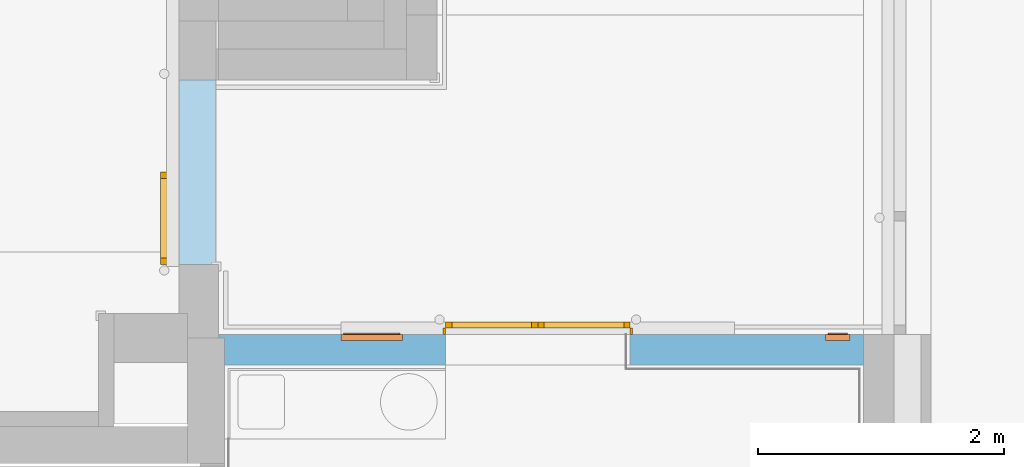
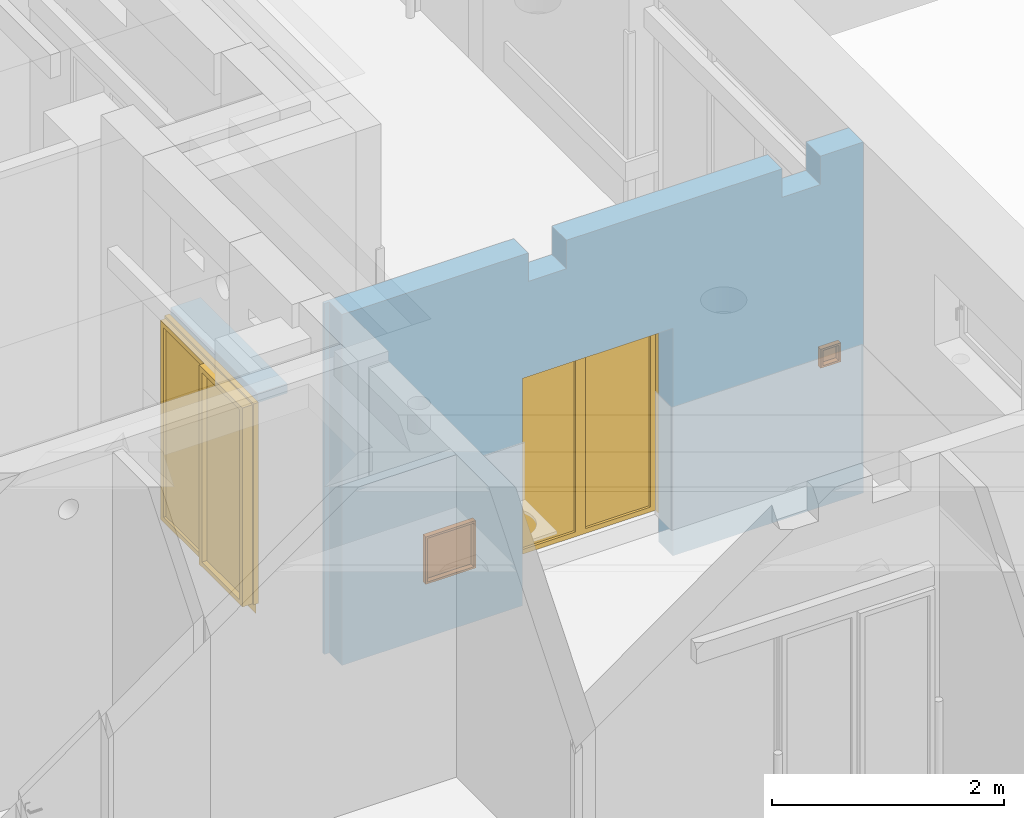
# One storey, part 84 of 140: 2 doors, 2 proxies, 6 openings, plus 2 elements that do not belong to this part.
"""IFC4 building model written with IfcOpenShell, lengths in metres."""

import ifcopenshell
import ifcopenshell.guid

model = None  # the IFC model being written
_history = None  # IfcOwnerHistory: only IFC2X3 demands one
_inside = {}  # id of a spatial element -> (the spatial element, [elements in it])
_under = {}  # id of a project, library or spatial element -> (it, [spatial elements below it])
_declared = {}  # id of a project -> (the project, [libraries it declares])
_typed = {}  # id of a type object -> (the type object, [elements of that type])
_made_of = {}  # id of a material, layer set ... -> (it, [elements and type objects made of it])


def new_model(schema):
    """Start an empty IFC model of exactly this schema.

    Asked for "IFC4X3", IfcOpenShell would pick the latest addendum, in which some entities
    have other attributes; the version numbers below select the first issue.
    IFC2X3 requires an IfcOwnerHistory on every rooted entity: one is made here for all.
    """
    global model, _history
    if schema == "IFC4X3":
        model = ifcopenshell.file(schema_version=(4, 3, 0, 0))
    else:
        model = ifcopenshell.file(schema=schema)
    _inside.clear()
    _under.clear()
    _declared.clear()
    _typed.clear()
    _made_of.clear()
    _history = None
    if model.schema == "IFC2X3":
        org = make("IfcOrganization", Name="unknown")
        user = make(
            "IfcPersonAndOrganization",
            ThePerson=make("IfcPerson", FamilyName="unknown"),
            TheOrganization=org,
        )
        app = make(
            "IfcApplication",
            ApplicationDeveloper=org,
            Version="unknown",
            ApplicationFullName="unknown",
            ApplicationIdentifier="unknown",
        )
        _history = make(
            "IfcOwnerHistory",
            OwningUser=user,
            OwningApplication=app,
            ChangeAction="ADDED",
            CreationDate=0,
        )
    return model


def make(cls, **values):
    """One entity of the class cls with the attributes given. An attribute that is None is left unset."""
    return model.create_entity(
        cls, **{name: value for name, value in values.items() if value is not None}
    )


def entity(cls, *values):
    """Any entity or typed value of the class cls, its attributes in the order of the schema. None: left unset."""
    e = model.create_entity(cls)
    for i, value in enumerate(values):
        if value is not None:
            e[i] = value
    return e


def rooted(cls, **values):
    """An entity with a GlobalId (a new one), such as an element, a storey or a relation."""
    return make(cls, GlobalId=ifcopenshell.guid.new(), OwnerHistory=_history, **values)


def si_unit(unit_type, name, prefix=None):
    """IfcSIUnit, for example si_unit("LENGTHUNIT", "METRE", prefix="MILLI")."""
    return make("IfcSIUnit", UnitType=unit_type, Prefix=prefix, Name=name)


def converted_unit(unit_type, name, factor, base, dimensions=None, offset=None):
    """IfcConversionBasedUnit, such as the inch: factor (a typed value) times the base unit."""
    return make(
        "IfcConversionBasedUnit"
        if offset is None
        else "IfcConversionBasedUnitWithOffset",
        ConversionOffset=offset,
        Dimensions=None
        if dimensions is None
        else entity("IfcDimensionalExponents", *dimensions),
        UnitType=unit_type,
        Name=name,
        ConversionFactor=make(
            "IfcMeasureWithUnit", ValueComponent=factor, UnitComponent=base
        ),
    )


def derived_unit(unit_type, elements):
    """IfcDerivedUnit: a product of units, each with its exponent."""
    return make(
        "IfcDerivedUnit",
        Elements=[
            make("IfcDerivedUnitElement", Unit=unit, Exponent=power)
            for unit, power in elements
        ],
        UnitType=unit_type,
    )


def assignment(units):
    """IfcUnitAssignment: the units of a project."""
    return None if units is None else make("IfcUnitAssignment", Units=units)


def point(xyz):
    """IfcCartesianPoint."""
    return None if xyz is None else make("IfcCartesianPoint", Coordinates=xyz)


def direction(xyz):
    """IfcDirection."""
    return None if xyz is None else make("IfcDirection", DirectionRatios=xyz)


def frame(location, z_axis=None, x_axis=None):
    """IfcAxis2Placement3D, a coordinate frame: its origin and axes. An axis left out is left unset."""
    return make(
        "IfcAxis2Placement3D",
        Location=point(location),
        Axis=direction(z_axis),
        RefDirection=direction(x_axis),
    )


def frame_2d(location, x_axis=None):
    """IfcAxis2Placement2D, a coordinate frame in the plane: its origin and x axis."""
    return make(
        "IfcAxis2Placement2D", Location=point(location), RefDirection=direction(x_axis)
    )


def origin():
    """The frame at (0, 0, 0) with its axes left unset."""
    return frame((0.0, 0.0, 0.0))


def origin_with_axes():
    """The frame at (0, 0, 0) with the z axis (0, 0, 1) and the x axis (1, 0, 0) written out."""
    return frame((0.0, 0.0, 0.0), z_axis=(0.0, 0.0, 1.0), x_axis=(1.0, 0.0, 0.0))


def place(relative_to, where):
    """IfcLocalPlacement: puts the frame where relative to a parent placement (None: the world)."""
    return make(
        "IfcLocalPlacement", PlacementRelTo=relative_to, RelativePlacement=where
    )


def context(
    kind, dimensions, precision=None, world=None, true_north=None, identifier=None
):
    """IfcGeometricRepresentationContext, for example the 3D "Model" context."""
    return make(
        "IfcGeometricRepresentationContext",
        ContextIdentifier=identifier,
        ContextType=kind,
        CoordinateSpaceDimension=dimensions,
        Precision=precision,
        WorldCoordinateSystem=world,
        TrueNorth=true_north,
    )


def subcontext(parent, identifier, kind, view, scale=None):
    """IfcGeometricRepresentationSubContext, for example "Body" below "Model"."""
    return make(
        "IfcGeometricRepresentationSubContext",
        ContextIdentifier=identifier,
        ContextType=kind,
        ParentContext=parent,
        TargetScale=scale,
        TargetView=view,
    )


def project(units=None, contexts=None):
    """IfcProject with its units and contexts."""
    return rooted(
        "IfcProject",
        Name="project",
        RepresentationContexts=contexts,
        UnitsInContext=assignment(units),
    )


def spatial(cls, under=None, at=None, **own):
    """A site, building, storey or space (cls), placed at a placement, below another one or the project."""
    s = rooted(cls, ObjectPlacement=at, **own)
    if under is not None:
        _under.setdefault(under.id(), (under, []))[1].append(s)
    return s


def polyline(points):
    """IfcPolyline through the points."""
    return make("IfcPolyline", Points=[point(p) for p in points])


def profile(cls, at=None, kind="AREA", **sizes):
    """A parametric profile (cls). Its sizes go by their IFC names, for example OverallWidth=200.0."""
    return make(cls, ProfileType=kind, Position=at, **sizes)


def rectangle(**sizes):
    """IfcRectangleProfileDef."""
    return profile("IfcRectangleProfileDef", **sizes)


def outline(outer, holes=None, kind="AREA"):
    """IfcArbitraryClosedProfileDef: a profile drawn as a closed curve; with holes, ...WithVoids."""
    if holes is None:
        return make("IfcArbitraryClosedProfileDef", ProfileType=kind, OuterCurve=outer)
    return make(
        "IfcArbitraryProfileDefWithVoids",
        ProfileType=kind,
        OuterCurve=outer,
        InnerCurves=holes,
    )


def extrude(swept, where, along, depth):
    """IfcExtrudedAreaSolid: the profile swept, set in the frame where, extruded along a direction by depth."""
    return make(
        "IfcExtrudedAreaSolid",
        SweptArea=swept,
        Position=where,
        ExtrudedDirection=direction(along),
        Depth=depth,
    )


def faces_of(points, faces, orient=None, outer=None):
    """IfcFace entities. A face is a list of loops; a loop is a list of indices into points, from 0.

    orient and outer hold one flag for each loop. By default every Orientation is true, the
    first loop of a face is its IfcFaceOuterBound and the others are IfcFaceBound.
    """
    made = []
    for i, loops in enumerate(faces):
        bounds = []
        for j, loop in enumerate(loops):
            is_outer = j == 0 if outer is None else outer[i][j]
            bounds.append(
                make(
                    "IfcFaceOuterBound" if is_outer else "IfcFaceBound",
                    Bound=make("IfcPolyLoop", Polygon=[points[k] for k in loop]),
                    Orientation=True if orient is None else orient[i][j],
                )
            )
        made.append(make("IfcFace", Bounds=bounds))
    return made


def closed_shell(faces, orient=None, outer=None):
    """The faces of one IfcClosedShell. faceted_brep and surface_model build it on their shared points."""
    return ("IfcClosedShell", faces, orient, outer)


def open_shell(faces, orient=None, outer=None):
    """The faces of one IfcOpenShell. surface_model builds it on its shared points."""
    return ("IfcOpenShell", faces, orient, outer)


def faceted_brep(points, faces, orient=None, outer=None, voids=None):
    """IfcFacetedBrep: a solid bounded by flat faces; with voids (closed shells), ...WithVoids."""
    shared = [point(p) for p in points]
    hull = make("IfcClosedShell", CfsFaces=faces_of(shared, faces, orient, outer))
    if voids is None:
        return make("IfcFacetedBrep", Outer=hull)
    return make(
        "IfcFacetedBrepWithVoids",
        Outer=hull,
        Voids=[
            make(cls, CfsFaces=faces_of(shared, fs, o, b)) for cls, fs, o, b in voids
        ],
    )


def surface_model(cls, points, shells):
    """IfcFaceBasedSurfaceModel or IfcShellBasedSurfaceModel (cls): surfaces that need not close."""
    shared = [point(p) for p in points]
    made = [make(c, CfsFaces=faces_of(shared, fs, o, b)) for c, fs, o, b in shells]
    if cls == "IfcFaceBasedSurfaceModel":
        return make(cls, FbsmFaces=made)
    return make(cls, SbsmBoundary=made)


def shape(context_of_items, identifier, shape_type, items):
    """IfcShapeRepresentation: the items that make up one representation, for example the "Body"."""
    return make(
        "IfcShapeRepresentation",
        ContextOfItems=context_of_items,
        RepresentationIdentifier=identifier,
        RepresentationType=shape_type,
        Items=items,
    )


def source(mapping_origin, context_of_items, identifier, shape_type, items):
    """IfcRepresentationMap: a shape defined once, which mapped items show again and again."""
    return make(
        "IfcRepresentationMap",
        MappingOrigin=mapping_origin,
        MappedRepresentation=shape(context_of_items, identifier, shape_type, items),
    )


def transform(
    local_origin,
    x_axis=None,
    y_axis=None,
    z_axis=None,
    scale=None,
    scale2=None,
    scale3=None,
    uniform=True,
):
    """IfcCartesianTransformationOperator3D, or its non-uniform kind. x_axis, y_axis, z_axis: its Axis1, 2, 3."""
    if uniform:
        return make(
            "IfcCartesianTransformationOperator3D",
            Axis1=direction(x_axis),
            Axis2=direction(y_axis),
            LocalOrigin=point(local_origin),
            Scale=scale,
            Axis3=direction(z_axis),
        )
    return make(
        "IfcCartesianTransformationOperator3DnonUniform",
        Axis1=direction(x_axis),
        Axis2=direction(y_axis),
        LocalOrigin=point(local_origin),
        Scale=scale,
        Axis3=direction(z_axis),
        Scale2=scale2,
        Scale3=scale3,
    )


def mapped(mapping_source, mapping_target):
    """IfcMappedItem: shows the shape of a source again, moved by a transform."""
    return make(
        "IfcMappedItem", MappingSource=mapping_source, MappingTarget=mapping_target
    )


def material(Name=None, Category=None):
    """IfcMaterial."""
    return make("IfcMaterial", Name=Name, Category=Category)


def layer(
    of_material, thickness, ventilated=None, Name=None, Category=None, Priority=None
):
    """IfcMaterialLayer: one layer of a wall or slab, of a material (None: an air gap)."""
    return make(
        "IfcMaterialLayer",
        Material=of_material,
        LayerThickness=thickness,
        IsVentilated=ventilated,
        Name=Name,
        Category=Category,
        Priority=Priority,
    )


def layer_set(layers, Name=None):
    """IfcMaterialLayerSet."""
    return make("IfcMaterialLayerSet", MaterialLayers=layers, LayerSetName=Name)


def layer_usage(for_layer_set, set_direction, sense, offset, extent=None):
    """IfcMaterialLayerSetUsage: how a layer set lies in its element."""
    return make(
        "IfcMaterialLayerSetUsage",
        ForLayerSet=for_layer_set,
        LayerSetDirection=set_direction,
        DirectionSense=sense,
        OffsetFromReferenceLine=offset,
        ReferenceExtent=extent,
    )


def made_of(thing, what):
    """Note that an element or type object is made of a material, layer set ...; save() writes the relation."""
    if what is not None:
        _made_of.setdefault(what.id(), (what, []))[1].append(thing)
    return thing


def type_object(cls, material=None, **own):
    """A type object (cls), such as IfcWallType, which elements share."""
    return made_of(rooted(cls, **own), material)


def element(
    cls,
    number,
    at=None,
    inside=None,
    cuts=None,
    type_object=None,
    material=None,
    context=None,
    identifier="Body",
    shape_type=None,
    held_by="IfcProductDefinitionShape",
    body=None,
    shapes=None,
    **own,
):
    """One element of the class cls, such as IfcWall. Its Tag is "e" and its number.

    at: its placement. inside: the storey or other place that contains it. cuts: it is an
    opening in that element (IfcRelVoidsElement). A single representation is given by context,
    identifier, shape_type and body (its items); several are given by shapes. held_by: the class
    of the entity that holds the representations. save() writes the other relations.
    """
    e = rooted(cls, Tag="e%d" % number, ObjectPlacement=at, **own)
    if body is not None:
        shapes = [shape(context, identifier, shape_type, body)]
    if shapes is not None:
        e.Representation = make(held_by, Representations=shapes)
    if inside is not None:
        _inside.setdefault(inside.id(), (inside, []))[1].append(e)
    if cuts is not None:
        rooted(
            "IfcRelVoidsElement", RelatingBuildingElement=cuts, RelatedOpeningElement=e
        )
    if type_object is not None:
        _typed.setdefault(type_object.id(), (type_object, []))[1].append(e)
    return made_of(e, material)


def fill(opening, filler):
    """IfcRelFillsElement: the door or window that sits in an opening."""
    return rooted(
        "IfcRelFillsElement",
        RelatingOpeningElement=opening,
        RelatedBuildingElement=filler,
    )


def aggregate(whole, parts):
    """IfcRelAggregates: a whole, such as a stair, and the parts it consists of."""
    return rooted("IfcRelAggregates", RelatingObject=whole, RelatedObjects=parts)


def save(model, path):
    """Write the relations noted so far, then the file.

    IfcRelAggregates (storeys below a building ...), IfcRelContainedInSpatialStructure (elements
    in a storey), IfcRelDefinesByType, IfcRelAssociatesMaterial and IfcRelDeclares: one each for
    every whole, place, type object, material and project.
    """
    for whole, parts in _under.values():
        aggregate(whole, parts)
    for where, things in _inside.values():
        rooted(
            "IfcRelContainedInSpatialStructure",
            RelatedElements=things,
            RelatingStructure=where,
        )
    for kind, things in _typed.values():
        rooted("IfcRelDefinesByType", RelatedObjects=things, RelatingType=kind)
    for what, things in _made_of.values():
        rooted("IfcRelAssociatesMaterial", RelatedObjects=things, RelatingMaterial=what)
    for by, libraries in _declared.values():
        rooted("IfcRelDeclares", RelatingContext=by, RelatedDefinitions=libraries)
    model.write(path)


model = new_model("IFC4")

# Units and contexts
model_context = context("Model", 3, precision=1e-05, world=origin())
body_context = subcontext(model_context, "Body", "Model", "MODEL_VIEW")
ifc_project = project(units=[si_unit("LENGTHUNIT", "METRE"), si_unit("AREAUNIT", "SQUARE_METRE"), si_unit("VOLUMEUNIT", "CUBIC_METRE"), si_unit("MASSUNIT", "GRAM", prefix="KILO"), converted_unit("PLANEANGLEUNIT", "DEGREE", entity("IfcPlaneAngleMeasure", 0.0174532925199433), si_unit("PLANEANGLEUNIT", "RADIAN"), dimensions=[0, 0, 0, 0, 0, 0, 0]), derived_unit("THERMALTRANSMITTANCEUNIT", [(si_unit("POWERUNIT", "WATT"), 1), (si_unit("THERMODYNAMICTEMPERATUREUNIT", "KELVIN"), -1), (si_unit("LENGTHUNIT", "METRE"), -2)]), derived_unit("VOLUMETRICFLOWRATEUNIT", [(si_unit("LENGTHUNIT", "METRE"), 3), (converted_unit("TIMEUNIT", "hour", entity("IfcTimeMeasure", 3600.0), si_unit("TIMEUNIT", "SECOND"), dimensions=[0, 0, 1, 0, 0, 0, 0]), -1), (si_unit("LENGTHUNIT", "METRE"), -1)])], contexts=[model_context])

# Site, building, storey
site_placement = place(None, origin())
site = spatial("IfcSite", under=ifc_project, at=site_placement, Name="3. ASŘ", CompositionType="ELEMENT")
building_placement = place(site_placement, origin())
building = spatial("IfcBuilding", under=site, at=building_placement, Name="Pavilon C", CompositionType="ELEMENT")
storey_placement = place(building_placement, origin())
storey = spatial("IfcBuildingStorey", under=building, at=storey_placement, Name="Půdorys 1.NP", CompositionType="ELEMENT", Elevation=0.0)

# Wall, opening, door
ifc_material_1 = material(Name="YTONG 300")
ifc_layer_1 = layer(ifc_material_1, 0.3)
ifc_layer_set_1 = layer_set([ifc_layer_1])
ifc_layer_usage_1 = layer_usage(ifc_layer_set_1, "AXIS2", "POSITIVE", 0.0)
wall_1_placement = place(storey_placement, frame((49.88, 2.1, -0.1), z_axis=(0.0, 0.0, 1.0), x_axis=(0.0, -1.0, 0.0)))
wall_1 = element("IfcWall", 1, at=wall_1_placement, inside=storey, material=ifc_layer_usage_1, Name="YTONG 300", context=body_context, shape_type="SweptSolid", body=[
    extrude(rectangle(XDim=1.5, YDim=0.3, at=frame_2d((0.749999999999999, 0.15), x_axis=(1.0, 0.0))), origin_with_axes(), (0.0, 0.0, 1.0), 2.3),
])
opening_1_placement = place(wall_1_placement, frame((0.0, 0.0, 0.0), z_axis=(0.0, 1.0, 0.0), x_axis=(0.0, 0.0, 1.0)))
opening_1 = element("IfcOpeningElement", 2, at=opening_1_placement, cuts=wall_1, Name="Dveřní otvor", ObjectType="Opening", context=body_context, shape_type="SweptSolid", body=[
    extrude(outline(polyline([(0.0, 1.5), (2.2, 1.5), (2.2, 0.0), (0.0, 0.0), (0.0, 1.5)])), origin_with_axes(), (0.0, 0.0, 1.0), 0.3),
])
door_type_1 = type_object("IfcDoorType", Name="I.DH04", OperationType="NOTDEFINED", ParameterTakesPrecedence=False, PredefinedType="DOOR")
shared_shape_1 = source(origin_with_axes(), body_context, "Body", "SurfaceModel", [
    surface_model("IfcShellBasedSurfaceModel", [(0.0, 0.025, 0.0), (1.54, 0.025, 0.0), (1.54, 0.025, 0.1), (0.0, 0.025, 0.1)], [open_shell([[[0, 1, 2, 3]]], orient=[[False]])]),
    surface_model("IfcShellBasedSurfaceModel", [(0.0, 0.0500000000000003, 2.22), (0.0, 0.05, 0.101), (0.02, 0.05, 0.101), (0.02, 0.0500000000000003, 2.22), (0.0, 0.0, 0.101), (0.0, 2.62900812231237e-16, 2.22), (0.02, 2.62900812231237e-16, 2.22), (0.02, 0.0, 0.101)], [closed_shell([[[0, 1, 2, 3]], [[4, 5, 6, 7]], [[1, 0, 5, 4]], [[2, 1, 4, 7]], [[3, 2, 7, 6]], [[0, 3, 6, 5]]], orient=[[False], [False], [False], [False], [False], [False]])]),
    surface_model("IfcShellBasedSurfaceModel", [(1.52, 0.0500000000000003, 2.22), (1.52, 0.05, 0.101), (1.54, 0.05, 0.101), (1.54, 0.0500000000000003, 2.22), (1.52, 0.0, 0.101), (1.52, 2.62900812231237e-16, 2.22), (1.54, 2.62900812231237e-16, 2.22), (1.54, 0.0, 0.101)], [closed_shell([[[0, 1, 2, 3]], [[4, 5, 6, 7]], [[1, 0, 5, 4]], [[2, 1, 4, 7]], [[3, 2, 7, 6]], [[0, 3, 6, 5]]], orient=[[False], [False], [False], [False], [False], [False]])]),
    surface_model("IfcShellBasedSurfaceModel", [(0.02, 0.0500000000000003, 2.22), (0.02, 0.0500000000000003, 2.2), (1.52, 0.0500000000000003, 2.2), (1.52, 0.0500000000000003, 2.22), (0.02, 2.55795384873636e-16, 2.2), (0.02, 2.55795384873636e-16, 2.22), (1.52, 2.55795384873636e-16, 2.22), (1.52, 2.55795384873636e-16, 2.2)], [closed_shell([[[0, 1, 2, 3]], [[4, 5, 6, 7]], [[1, 0, 5, 4]], [[2, 1, 4, 7]], [[3, 2, 7, 6]], [[0, 3, 6, 5]]], orient=[[False], [False], [False], [False], [False], [False]])]),
    surface_model("IfcShellBasedSurfaceModel", [(0.02, 0.1, 2.2), (0.02, 0.1, 0.101), (0.07, 0.1, 0.101), (0.07, 0.1, 2.2), (0.02, 0.05, 0.101), (0.02, 0.0500000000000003, 2.2), (0.07, 0.0500000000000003, 2.2), (0.07, 0.05, 0.101)], [closed_shell([[[0, 1, 2, 3]], [[4, 5, 6, 7]], [[1, 0, 5, 4]], [[2, 1, 4, 7]], [[3, 2, 7, 6]], [[0, 3, 6, 5]]], orient=[[False], [False], [False], [False], [False], [False]])]),
    surface_model("IfcShellBasedSurfaceModel", [(0.7195, 0.1, 2.2), (0.7195, 0.1, 0.101), (0.7695, 0.1, 0.101), (0.7695, 0.1, 2.2), (0.7195, 0.05, 0.101), (0.7195, 0.0500000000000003, 2.2), (0.7695, 0.0500000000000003, 2.2), (0.7695, 0.05, 0.101)], [closed_shell([[[0, 1, 2, 3]], [[4, 5, 6, 7]], [[1, 0, 5, 4]], [[2, 1, 4, 7]], [[3, 2, 7, 6]], [[0, 3, 6, 5]]], orient=[[False], [False], [False], [False], [False], [False]])]),
    surface_model("IfcShellBasedSurfaceModel", [(0.07, 0.1, 0.151), (0.07, 0.1, 0.101), (0.7195, 0.1, 0.101), (0.7195, 0.1, 0.151), (0.07, 0.05, 0.101), (0.07, 0.05, 0.151), (0.7195, 0.05, 0.151), (0.7195, 0.05, 0.101)], [closed_shell([[[0, 1, 2, 3]], [[4, 5, 6, 7]], [[1, 0, 5, 4]], [[2, 1, 4, 7]], [[3, 2, 7, 6]], [[0, 3, 6, 5]]], orient=[[False], [False], [False], [False], [False], [False]])]),
    surface_model("IfcShellBasedSurfaceModel", [(0.07, 0.1, 2.2), (0.07, 0.1, 2.15), (0.7195, 0.1, 2.15), (0.7195, 0.1, 2.2), (0.07, 0.0500000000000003, 2.15), (0.07, 0.0500000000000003, 2.2), (0.7195, 0.0500000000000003, 2.2), (0.7195, 0.0500000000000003, 2.15)], [closed_shell([[[0, 1, 2, 3]], [[4, 5, 6, 7]], [[1, 0, 5, 4]], [[2, 1, 4, 7]], [[3, 2, 7, 6]], [[0, 3, 6, 5]]], orient=[[False], [False], [False], [False], [False], [False]])]),
    surface_model("IfcShellBasedSurfaceModel", [(0.7705, 0.15, 2.2), (0.7705, 0.15, 0.101), (0.8205, 0.15, 0.101), (0.8205, 0.15, 2.2), (0.7705, 0.05, 0.101), (0.7705, 0.0500000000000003, 2.2), (0.8205, 0.0500000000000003, 2.2), (0.8205, 0.05, 0.101)], [closed_shell([[[0, 1, 2, 3]], [[4, 5, 6, 7]], [[1, 0, 5, 4]], [[2, 1, 4, 7]], [[3, 2, 7, 6]], [[0, 3, 6, 5]]], orient=[[False], [False], [False], [False], [False], [False]])]),
    surface_model("IfcShellBasedSurfaceModel", [(1.47, 0.15, 2.2), (1.47, 0.15, 0.101), (1.52, 0.15, 0.101), (1.52, 0.15, 2.2), (1.47, 0.05, 0.101), (1.47, 0.0500000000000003, 2.2), (1.52, 0.0500000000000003, 2.2), (1.52, 0.05, 0.101)], [closed_shell([[[0, 1, 2, 3]], [[4, 5, 6, 7]], [[1, 0, 5, 4]], [[2, 1, 4, 7]], [[3, 2, 7, 6]], [[0, 3, 6, 5]]], orient=[[False], [False], [False], [False], [False], [False]])]),
    surface_model("IfcShellBasedSurfaceModel", [(0.8205, 0.15, 0.151), (0.8205, 0.15, 0.101), (1.47, 0.15, 0.101), (1.47, 0.15, 0.151), (0.8205, 0.05, 0.101), (0.8205, 0.05, 0.151), (1.47, 0.05, 0.151), (1.47, 0.05, 0.101)], [closed_shell([[[0, 1, 2, 3]], [[4, 5, 6, 7]], [[1, 0, 5, 4]], [[2, 1, 4, 7]], [[3, 2, 7, 6]], [[0, 3, 6, 5]]], orient=[[False], [False], [False], [False], [False], [False]])]),
    surface_model("IfcShellBasedSurfaceModel", [(0.8205, 0.15, 2.2), (0.8205, 0.15, 2.15), (1.47, 0.15, 2.15), (1.47, 0.15, 2.2), (0.8205, 0.0500000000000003, 2.15), (0.8205, 0.0500000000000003, 2.2), (1.47, 0.0500000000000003, 2.2), (1.47, 0.0500000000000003, 2.15)], [closed_shell([[[0, 1, 2, 3]], [[4, 5, 6, 7]], [[1, 0, 5, 4]], [[2, 1, 4, 7]], [[3, 2, 7, 6]], [[0, 3, 6, 5]]], orient=[[False], [False], [False], [False], [False], [False]])]),
    surface_model("IfcShellBasedSurfaceModel", [(0.07, 0.075, 0.151), (0.7195, 0.075, 0.151), (0.7195, 0.0750000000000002, 2.15), (0.07, 0.0750000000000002, 2.15)], [open_shell([[[0, 1, 2, 3]]], orient=[[False]])]),
    surface_model("IfcShellBasedSurfaceModel", [(0.8205, 0.1, 0.151), (1.47, 0.1, 0.151), (1.47, 0.1, 2.15), (0.8205, 0.1, 2.15)], [open_shell([[[0, 1, 2, 3]]], orient=[[False]])]),
])
door_1_placement = place(opening_1_placement, frame((0.0, -0.0199999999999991, -1.45519152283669e-14), z_axis=(1.0, 0.0, 0.0), x_axis=(0.0, 1.0, -1.22464679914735e-16)))
door_1 = element("IfcDoor", 3, at=door_1_placement, inside=storey, type_object=door_type_1, Name="I.DH04", OverallHeight=2.24, OverallWidth=1.58, context=body_context, shape_type="MappedRepresentation", body=[
    mapped(shared_shape_1, transform((0.0, 0.0, 0.0), x_axis=(1.0, 0.0, 0.0), y_axis=(0.0, -1.0, 0.0), z_axis=(0.0, 0.0, 1.0), scale=1.0)),
])
fill(opening_1, door_1)

# Wall, openings, door, proxies
ifc_material_2 = material(Name="SDK - 2 KCE + DVOJITÉ OPLÁŠTĚNÍ")
ifc_layer_2 = layer(ifc_material_2, 0.25)
ifc_layer_set_2 = layer_set([ifc_layer_2])
ifc_layer_usage_2 = layer_usage(ifc_layer_set_2, "AXIS2", "POSITIVE", 0.0)
wall_2_placement = place(storey_placement, frame((50.25, -0.21999999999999, -0.3), z_axis=(0.0, 0.0, 1.0), x_axis=(1.0, -1.31177120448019e-16, 0.0)))
wall_2 = element("IfcWall", 4, at=wall_2_placement, inside=storey, material=ifc_layer_usage_2, Name="SDK - 2 KCE + DVOJITÉ OPLÁŠTĚNÍ", context=body_context, shape_type="SweptSolid", body=[
    extrude(outline(polyline([(0.05, 6.88679882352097e-16), (5.24999999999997, 6.88679882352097e-16), (5.24999999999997, 0.250000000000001), (-3.27942801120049e-17, 0.250000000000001), (-2.88589664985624e-17, 0.219999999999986), (0.05, 0.219999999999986), (0.05, 6.88679882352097e-16)])), frame((-0.05, -6.88679882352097e-16, 0.0), z_axis=(0.0, 0.0, 1.0), x_axis=(1.0, 0.0, 0.0)), (0.0, 0.0, 1.0), 3.7),
])
opening_2_placement = place(wall_2_placement, frame((1.8, 8.74514136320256e-18, 0.0), z_axis=(0.0, 1.0, 0.0), x_axis=(0.0, 0.0, 1.0)))
opening_2 = element("IfcOpeningElement", 5, at=opening_2_placement, cuts=wall_2, Name="Dveřní otvor", ObjectType="Opening", context=body_context, shape_type="SweptSolid", body=[
    extrude(outline(polyline([(0.0, 1.5), (2.4, 1.5), (2.4, 0.0), (0.0, 0.0), (0.0, 1.5)])), origin_with_axes(), (0.0, 0.0, 1.0), 0.25),
])
opening_3_placement = place(wall_2_placement, frame((5.08999999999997, 0.25, 1.3), z_axis=(0.0, -1.0, 0.0), x_axis=(0.0, 0.0, 1.0)))
opening_3 = element("IfcOpeningElement", 6, at=opening_3_placement, cuts=wall_2, Name="Stěnová nika", ObjectType="Opening", context=body_context, shape_type="SweptSolid", body=[
    extrude(outline(polyline([(0.0, 0.2), (0.2, 0.2), (0.2, 0.0), (0.0, 0.0), (0.0, 0.2)])), origin_with_axes(), (0.0, 0.0, 1.0), 0.05),
])
opening_4_placement = place(wall_2_placement, frame((1.45, 0.25, 0.4), z_axis=(0.0, -1.0, 0.0), x_axis=(0.0, 0.0, 1.0)))
opening_4 = element("IfcOpeningElement", 7, at=opening_4_placement, cuts=wall_2, Name="Stěnová nika", ObjectType="Opening", context=body_context, shape_type="SweptSolid", body=[
    extrude(outline(polyline([(0.0, 0.5), (0.5, 0.5), (0.5, 0.0), (0.0, 0.0), (0.0, 0.5)])), origin_with_axes(), (0.0, 0.0, 1.0), 0.05),
])
opening_5_placement = place(wall_2_placement, frame((1.85760601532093, 1.6301732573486e-17, 3.4), z_axis=(0.0, 1.0, 0.0), x_axis=(0.0, 0.0, 1.0)))
element("IfcOpeningElement", 8, at=opening_5_placement, cuts=wall_2, Name="VZT", ObjectType="Opening", context=body_context, shape_type="SweptSolid", body=[
    extrude(outline(polyline([(0.0, 0.38), (0.3, 0.38), (0.3, 0.0), (0.0, 0.0), (0.0, 0.38)])), origin_with_axes(), (0.0, 0.0, 1.0), 0.25),
])
opening_6_placement = place(wall_2_placement, frame((4.39029999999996, 1.21159561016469e-16, 3.4), z_axis=(0.0, 1.0, 0.0), x_axis=(0.0, 0.0, 1.0)))
element("IfcOpeningElement", 9, at=opening_6_placement, cuts=wall_2, Name="VZT", ObjectType="Opening", context=body_context, shape_type="SweptSolid", body=[
    extrude(outline(polyline([(0.0, 0.38), (0.3, 0.38), (0.3, 0.0), (0.0, 0.0), (0.0, 0.38)])), origin_with_axes(), (0.0, 0.0, 1.0), 0.25),
])
door_type_2 = type_object("IfcDoorType", Name="I.DH03", OperationType="NOTDEFINED", ParameterTakesPrecedence=False, PredefinedType="DOOR")
shared_shape_2 = source(origin_with_axes(), body_context, "Body", "SurfaceModel", [
    surface_model("IfcShellBasedSurfaceModel", [(0.0, 0.0500000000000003, 2.119), (0.0, 0.05, 0.0), (0.02, 0.05, 0.0), (0.02, 0.0500000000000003, 2.119), (0.0, 0.0, 0.0), (0.0, 2.62900812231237e-16, 2.119), (0.02, 2.62900812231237e-16, 2.119), (0.02, 0.0, 0.0)], [closed_shell([[[0, 1, 2, 3]], [[4, 5, 6, 7]], [[1, 0, 5, 4]], [[2, 1, 4, 7]], [[3, 2, 7, 6]], [[0, 3, 6, 5]]], orient=[[False], [False], [False], [False], [False], [False]])]),
    surface_model("IfcShellBasedSurfaceModel", [(1.52, 0.0500000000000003, 2.119), (1.52, 0.05, 0.0), (1.54, 0.05, 0.0), (1.54, 0.0500000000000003, 2.119), (1.52, 0.0, 0.0), (1.52, 2.62900812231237e-16, 2.119), (1.54, 2.62900812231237e-16, 2.119), (1.54, 0.0, 0.0)], [closed_shell([[[0, 1, 2, 3]], [[4, 5, 6, 7]], [[1, 0, 5, 4]], [[2, 1, 4, 7]], [[3, 2, 7, 6]], [[0, 3, 6, 5]]], orient=[[False], [False], [False], [False], [False], [False]])]),
    surface_model("IfcShellBasedSurfaceModel", [(0.02, 0.0500000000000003, 2.119), (0.02, 0.0500000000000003, 2.099), (1.52, 0.0500000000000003, 2.099), (1.52, 0.0500000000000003, 2.119), (0.02, 2.55795384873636e-16, 2.099), (0.02, 2.55795384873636e-16, 2.119), (1.52, 2.55795384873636e-16, 2.119), (1.52, 2.55795384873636e-16, 2.099)], [closed_shell([[[0, 1, 2, 3]], [[4, 5, 6, 7]], [[1, 0, 5, 4]], [[2, 1, 4, 7]], [[3, 2, 7, 6]], [[0, 3, 6, 5]]], orient=[[False], [False], [False], [False], [False], [False]])]),
    surface_model("IfcShellBasedSurfaceModel", [(0.02, 0.1, 2.099), (0.02, 0.1, 0.0), (0.07, 0.1, 0.0), (0.07, 0.1, 2.099), (0.02, 0.05, 0.0), (0.02, 0.0500000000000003, 2.099), (0.07, 0.0500000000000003, 2.099), (0.07, 0.05, 0.0)], [closed_shell([[[0, 1, 2, 3]], [[4, 5, 6, 7]], [[1, 0, 5, 4]], [[2, 1, 4, 7]], [[3, 2, 7, 6]], [[0, 3, 6, 5]]], orient=[[False], [False], [False], [False], [False], [False]])]),
    surface_model("IfcShellBasedSurfaceModel", [(0.7195, 0.1, 2.099), (0.7195, 0.1, 0.0), (0.7695, 0.1, 0.0), (0.7695, 0.1, 2.099), (0.7195, 0.05, 0.0), (0.7195, 0.0500000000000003, 2.099), (0.7695, 0.0500000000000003, 2.099), (0.7695, 0.05, 0.0)], [closed_shell([[[0, 1, 2, 3]], [[4, 5, 6, 7]], [[1, 0, 5, 4]], [[2, 1, 4, 7]], [[3, 2, 7, 6]], [[0, 3, 6, 5]]], orient=[[False], [False], [False], [False], [False], [False]])]),
    surface_model("IfcShellBasedSurfaceModel", [(0.07, 0.1, 0.05), (0.07, 0.1, 0.0), (0.7195, 0.1, 0.0), (0.7195, 0.1, 0.05), (0.07, 0.05, 0.0), (0.07, 0.05, 0.05), (0.7195, 0.05, 0.05), (0.7195, 0.05, 0.0)], [closed_shell([[[0, 1, 2, 3]], [[4, 5, 6, 7]], [[1, 0, 5, 4]], [[2, 1, 4, 7]], [[3, 2, 7, 6]], [[0, 3, 6, 5]]], orient=[[False], [False], [False], [False], [False], [False]])]),
    surface_model("IfcShellBasedSurfaceModel", [(0.07, 0.1, 2.099), (0.07, 0.1, 2.049), (0.7195, 0.1, 2.049), (0.7195, 0.1, 2.099), (0.07, 0.0500000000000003, 2.049), (0.07, 0.0500000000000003, 2.099), (0.7195, 0.0500000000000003, 2.099), (0.7195, 0.0500000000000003, 2.049)], [closed_shell([[[0, 1, 2, 3]], [[4, 5, 6, 7]], [[1, 0, 5, 4]], [[2, 1, 4, 7]], [[3, 2, 7, 6]], [[0, 3, 6, 5]]], orient=[[False], [False], [False], [False], [False], [False]])]),
    surface_model("IfcShellBasedSurfaceModel", [(0.7705, 0.1, 2.099), (0.7705, 0.1, 0.0), (0.8205, 0.1, 0.0), (0.8205, 0.1, 2.099), (0.7705, 0.05, 0.0), (0.7705, 0.0500000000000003, 2.099), (0.8205, 0.0500000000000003, 2.099), (0.8205, 0.05, 0.0)], [closed_shell([[[0, 1, 2, 3]], [[4, 5, 6, 7]], [[1, 0, 5, 4]], [[2, 1, 4, 7]], [[3, 2, 7, 6]], [[0, 3, 6, 5]]], orient=[[False], [False], [False], [False], [False], [False]])]),
    surface_model("IfcShellBasedSurfaceModel", [(1.47, 0.1, 2.099), (1.47, 0.1, 0.0), (1.52, 0.1, 0.0), (1.52, 0.1, 2.099), (1.47, 0.05, 0.0), (1.47, 0.0500000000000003, 2.099), (1.52, 0.0500000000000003, 2.099), (1.52, 0.05, 0.0)], [closed_shell([[[0, 1, 2, 3]], [[4, 5, 6, 7]], [[1, 0, 5, 4]], [[2, 1, 4, 7]], [[3, 2, 7, 6]], [[0, 3, 6, 5]]], orient=[[False], [False], [False], [False], [False], [False]])]),
    surface_model("IfcShellBasedSurfaceModel", [(0.8205, 0.1, 0.05), (0.8205, 0.1, 0.0), (1.47, 0.1, 0.0), (1.47, 0.1, 0.05), (0.8205, 0.05, 0.0), (0.8205, 0.05, 0.05), (1.47, 0.05, 0.05), (1.47, 0.05, 0.0)], [closed_shell([[[0, 1, 2, 3]], [[4, 5, 6, 7]], [[1, 0, 5, 4]], [[2, 1, 4, 7]], [[3, 2, 7, 6]], [[0, 3, 6, 5]]], orient=[[False], [False], [False], [False], [False], [False]])]),
    surface_model("IfcShellBasedSurfaceModel", [(0.8205, 0.1, 2.099), (0.8205, 0.1, 2.049), (1.47, 0.1, 2.049), (1.47, 0.1, 2.099), (0.8205, 0.0500000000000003, 2.049), (0.8205, 0.0500000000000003, 2.099), (1.47, 0.0500000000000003, 2.099), (1.47, 0.0500000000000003, 2.049)], [closed_shell([[[0, 1, 2, 3]], [[4, 5, 6, 7]], [[1, 0, 5, 4]], [[2, 1, 4, 7]], [[3, 2, 7, 6]], [[0, 3, 6, 5]]], orient=[[False], [False], [False], [False], [False], [False]])]),
    surface_model("IfcShellBasedSurfaceModel", [(0.07, 0.075, 0.05), (0.7195, 0.075, 0.05), (0.7195, 0.0750000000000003, 2.049), (0.07, 0.0750000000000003, 2.049)], [open_shell([[[0, 1, 2, 3]]], orient=[[False]])]),
    surface_model("IfcShellBasedSurfaceModel", [(0.8205, 0.075, 0.05), (1.47, 0.075, 0.05), (1.47, 0.0750000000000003, 2.049), (0.8205, 0.0750000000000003, 2.049)], [open_shell([[[0, 1, 2, 3]]], orient=[[False]])]),
])
door_2_placement = place(opening_2_placement, frame((0.301, 1.52, 0.25), z_axis=(1.0, 0.0, 0.0), x_axis=(0.0, -1.0, -1.31177120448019e-16)))
door_2 = element("IfcDoor", 10, at=door_2_placement, inside=storey, type_object=door_type_2, Name="I.DH03", OverallHeight=2.44, OverallWidth=1.58, context=body_context, shape_type="MappedRepresentation", body=[
    mapped(shared_shape_2, transform((0.0, 0.0, 0.0), x_axis=(1.0, 0.0, 0.0), y_axis=(0.0, -1.0, 0.0), z_axis=(0.0, 0.0, 1.0), scale=1.0)),
])
fill(opening_2, door_2)
shared_shape_3 = source(origin_with_axes(), body_context, "Body", "Brep", [
    faceted_brep([(0.2, 0.0500000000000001, 0.2), (0.18, 0.0500000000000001, 0.2), (0.18, 0.05, 0.0), (0.2, 0.05, 0.0), (0.2, 1.77635683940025e-17, 0.0), (0.18, 1.77635683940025e-17, 0.0), (0.18, 3.90798504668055e-17, 0.2), (0.2, 3.90798504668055e-17, 0.2)], [[[0, 1, 2, 3]], [[4, 5, 6, 7]], [[3, 4, 7, 0]], [[2, 5, 4, 3]], [[1, 6, 5, 2]], [[0, 7, 6, 1]]], orient=[[False], [False], [False], [False], [False], [False]]),
    faceted_brep([(0.02, 0.0500000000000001, 0.2), (0.0, 0.0500000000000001, 0.2), (0.0, 0.05, 0.0), (0.02, 0.05, 0.0), (0.02, 1.4210854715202e-17, 0.0), (0.0, 1.77635683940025e-17, 0.0), (0.0, 3.90798504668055e-17, 0.2), (0.02, 3.5527136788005e-17, 0.2)], [[[0, 1, 2, 3]], [[4, 5, 6, 7]], [[3, 4, 7, 0]], [[2, 5, 4, 3]], [[1, 6, 5, 2]], [[0, 7, 6, 1]]], orient=[[False], [False], [False], [False], [False], [False]]),
    faceted_brep([(0.18, 0.05, 0.02), (0.02, 0.05, 0.02), (0.02, 0.05, 0.0), (0.18, 0.05, 0.0), (0.18, 1.77635683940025e-17, 0.0), (0.02, 1.4210854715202e-17, 0.0), (0.02, 1.4210854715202e-17, 0.02), (0.18, 1.77635683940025e-17, 0.02)], [[[0, 1, 2, 3]], [[4, 5, 6, 7]], [[3, 4, 7, 0]], [[2, 5, 4, 3]], [[1, 6, 5, 2]], [[0, 7, 6, 1]]], orient=[[False], [False], [False], [False], [False], [False]]),
    faceted_brep([(0.18, 0.0500000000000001, 0.2), (0.02, 0.0500000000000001, 0.2), (0.02, 0.0500000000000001, 0.18), (0.18, 0.0500000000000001, 0.18), (0.18, 3.90798504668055e-17, 0.18), (0.02, 3.5527136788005e-17, 0.18), (0.02, 3.5527136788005e-17, 0.2), (0.18, 3.90798504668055e-17, 0.2)], [[[0, 1, 2, 3]], [[4, 5, 6, 7]], [[3, 4, 7, 0]], [[2, 5, 4, 3]], [[1, 6, 5, 2]], [[0, 7, 6, 1]]], orient=[[False], [False], [False], [False], [False], [False]]),
    faceted_brep([(0.18, 3.5527136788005e-17, 0.18), (0.02, 3.19744231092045e-17, 0.18), (0.02, 1.4210854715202e-17, 0.02), (0.18, 1.4210854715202e-17, 0.02), (0.18, -0.00999999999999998, 0.02), (0.02, -0.00999999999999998, 0.02), (0.02, -0.00999999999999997, 0.18), (0.18, -0.00999999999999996, 0.18)], [[[0, 1, 2, 3]], [[4, 5, 6, 7]], [[3, 4, 7, 0]], [[2, 5, 4, 3]], [[1, 6, 5, 2]], [[0, 7, 6, 1]]], orient=[[False], [False], [False], [False], [False], [False]]),
])
proxy_1_placement = place(opening_3_placement, frame((0.0, 0.0, 0.0), z_axis=(1.0, 0.0, 0.0), x_axis=(0.0, 1.0, 0.0)))
proxy_1 = element("IfcBuildingElementProxy", 11, at=proxy_1_placement, inside=storey, Name="I.Z6", context=body_context, shape_type="MappedRepresentation", body=[
    mapped(shared_shape_3, transform((0.0, 0.0, 0.0), x_axis=(1.0, 0.0, 0.0), y_axis=(0.0, 1.0, 0.0), z_axis=(0.0, 0.0, 1.0), scale=1.0)),
])
fill(opening_3, proxy_1)
shared_shape_4 = source(origin_with_axes(), body_context, "Body", "Brep", [
    faceted_brep([(0.5, 0.0500000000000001, 0.5), (0.48, 0.0500000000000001, 0.5), (0.48, 0.0500000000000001, 0.0), (0.5, 0.0500000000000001, 0.0), (0.5, 1.77635683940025e-17, 0.0), (0.48, 1.77635683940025e-17, 0.0), (0.48, 8.17124146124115e-17, 0.5), (0.5, 8.17124146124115e-17, 0.5)], [[[0, 1, 2, 3]], [[4, 5, 6, 7]], [[3, 4, 7, 0]], [[2, 5, 4, 3]], [[1, 6, 5, 2]], [[0, 7, 6, 1]]], orient=[[False], [False], [False], [False], [False], [False]]),
    faceted_brep([(0.02, 0.0500000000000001, 0.5), (0.0, 0.0500000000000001, 0.5), (0.0, 0.0500000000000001, 0.0), (0.02, 0.05, 0.0), (0.02, 1.4210854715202e-17, 0.0), (0.0, 1.06581410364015e-17, 0.0), (0.0, 7.46069872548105e-17, 0.5), (0.02, 7.8159700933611e-17, 0.5)], [[[0, 1, 2, 3]], [[4, 5, 6, 7]], [[3, 4, 7, 0]], [[2, 5, 4, 3]], [[1, 6, 5, 2]], [[0, 7, 6, 1]]], orient=[[False], [False], [False], [False], [False], [False]]),
    faceted_brep([(0.48, 0.0500000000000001, 0.02), (0.02, 0.05, 0.02), (0.02, 0.05, 0.0), (0.48, 0.0500000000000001, 0.0), (0.48, 1.77635683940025e-17, 0.0), (0.02, 1.4210854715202e-17, 0.0), (0.02, 1.4210854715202e-17, 0.02), (0.48, 1.77635683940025e-17, 0.02)], [[[0, 1, 2, 3]], [[4, 5, 6, 7]], [[3, 4, 7, 0]], [[2, 5, 4, 3]], [[1, 6, 5, 2]], [[0, 7, 6, 1]]], orient=[[False], [False], [False], [False], [False], [False]]),
    faceted_brep([(0.48, 0.0500000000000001, 0.5), (0.02, 0.0500000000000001, 0.5), (0.02, 0.0500000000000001, 0.48), (0.48, 0.0500000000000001, 0.48), (0.48, 7.46069872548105e-17, 0.48), (0.02, 7.105427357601e-17, 0.48), (0.02, 7.105427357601e-17, 0.5), (0.48, 7.46069872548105e-17, 0.5)], [[[0, 1, 2, 3]], [[4, 5, 6, 7]], [[3, 4, 7, 0]], [[2, 5, 4, 3]], [[1, 6, 5, 2]], [[0, 7, 6, 1]]], orient=[[False], [False], [False], [False], [False], [False]]),
    faceted_brep([(0.48, 7.105427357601e-17, 0.48), (0.02, 6.75015598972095e-17, 0.48), (0.02, 1.06581410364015e-17, 0.02), (0.48, 1.4210854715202e-17, 0.02), (0.48, -0.01, 0.02), (0.02, -0.01, 0.02), (0.02, -0.00999999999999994, 0.48), (0.48, -0.00999999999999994, 0.48)], [[[0, 1, 2, 3]], [[4, 5, 6, 7]], [[3, 4, 7, 0]], [[2, 5, 4, 3]], [[1, 6, 5, 2]], [[0, 7, 6, 1]]], orient=[[False], [False], [False], [False], [False], [False]]),
])
proxy_2_placement = place(opening_4_placement, frame((0.0, 0.0, 0.0), z_axis=(1.0, 0.0, 0.0), x_axis=(0.0, 1.0, 0.0)))
proxy_2 = element("IfcBuildingElementProxy", 12, at=proxy_2_placement, inside=storey, Name="I.Z6", context=body_context, shape_type="MappedRepresentation", body=[
    mapped(shared_shape_4, transform((0.0, 0.0, 0.0), x_axis=(1.0, 0.0, 0.0), y_axis=(0.0, 1.0, 0.0), z_axis=(0.0, 0.0, 1.0), scale=1.0)),
])
fill(opening_4, proxy_2)

save(model, "model.ifc")
